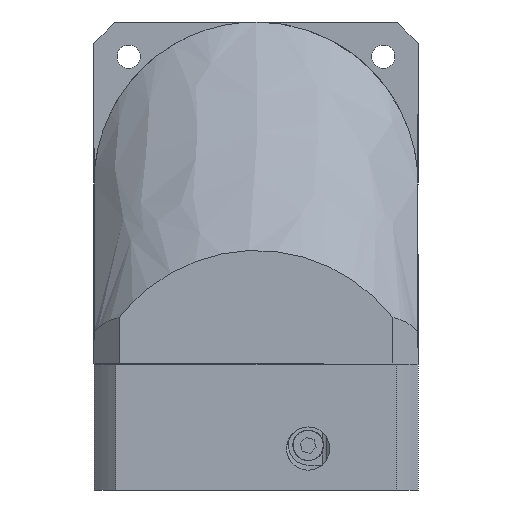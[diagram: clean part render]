
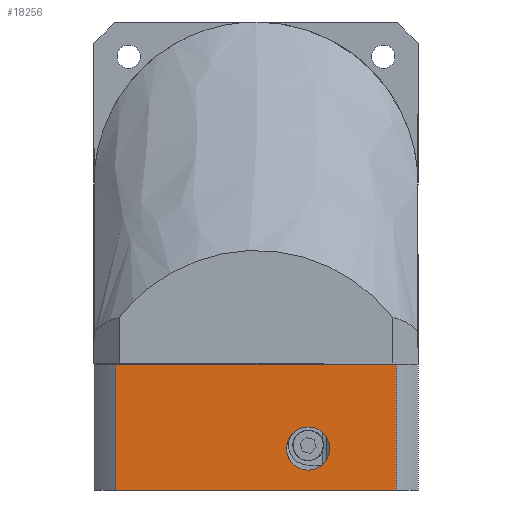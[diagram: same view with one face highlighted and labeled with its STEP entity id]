
A CAD part, front view. The second image highlights one B-rep face of the part: STEP entity #18256.
In plain terms, the highlighted planar face has unit normal (0, -1, 0) as drawn and (0, 0, 1) by its records, which use the part's own axes.
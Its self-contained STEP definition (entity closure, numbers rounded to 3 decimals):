
#817 = VERTEX_POINT ( 'NONE', #14903 ) ;
#1930 = EDGE_CURVE ( 'NONE', #2870, #8050, #3758, .T. ) ;
#2870 = VERTEX_POINT ( 'NONE', #21221 ) ;
#2893 = DIRECTION ( 'NONE',  ( 0., 0., -1. ) ) ;
#3099 = VECTOR ( 'NONE', #21223, 1000. ) ;
#3310 = FACE_BOUND ( 'NONE', #24379, .T. ) ;
#3758 = LINE ( 'NONE', #5715, #24033 ) ;
#4106 = DIRECTION ( 'NONE',  ( 0., 1., 0. ) ) ;
#4321 = EDGE_CURVE ( 'NONE', #8050, #817, #28242, .T. ) ;
#4721 = ORIENTED_EDGE ( 'NONE', *, *, #29421, .T. ) ;
#5494 = DIRECTION ( 'NONE',  ( 1., 0., 0. ) ) ;
#5715 = CARTESIAN_POINT ( 'NONE',  ( 59., -38.926, 45. ) ) ;
#5724 = ORIENTED_EDGE ( 'NONE', *, *, #4321, .T. ) ;
#8050 = VERTEX_POINT ( 'NONE', #29922 ) ;
#8631 = DIRECTION ( 'NONE',  ( 1., 0., 0. ) ) ;
#8857 = CARTESIAN_POINT ( 'NONE',  ( 0., 38.926, 45. ) ) ;
#10239 = ORIENTED_EDGE ( 'NONE', *, *, #1930, .T. ) ;
#10478 = VERTEX_POINT ( 'NONE', #21397 ) ;
#10853 = CIRCLE ( 'NONE', #23794, 6. ) ;
#11207 = DIRECTION ( 'NONE',  ( 0., 0., 1. ) ) ;
#11217 = VECTOR ( 'NONE', #4106, 1000. ) ;
#11722 = AXIS2_PLACEMENT_3D ( 'NONE', #33019, #2893, #18163 ) ;
#13328 = AXIS2_PLACEMENT_3D ( 'NONE', #18782, #11207, #8631 ) ;
#13689 = FACE_OUTER_BOUND ( 'NONE', #17675, .T. ) ;
#13841 = CARTESIAN_POINT ( 'NONE',  ( 5.5, -14.5, 45. ) ) ;
#14233 = VECTOR ( 'NONE', #18541, 1000. ) ;
#14903 = CARTESIAN_POINT ( 'NONE',  ( 35., 38.926, 45. ) ) ;
#17675 = EDGE_LOOP ( 'NONE', ( #10239, #5724, #32310, #22006 ) ) ;
#18163 = DIRECTION ( 'NONE',  ( 1., 0., 0. ) ) ;
#18256 = ADVANCED_FACE ( 'NONE', ( #13689, #3310 ), #26182, .T. ) ;
#18541 = DIRECTION ( 'NONE',  ( 0., -1., 0. ) ) ;
#18592 = LINE ( 'NONE', #28473, #14233 ) ;
#18782 = CARTESIAN_POINT ( 'NONE',  ( 59., -45., 45. ) ) ;
#19353 = CARTESIAN_POINT ( 'NONE',  ( 35., 59.5, 45. ) ) ;
#20906 = VERTEX_POINT ( 'NONE', #13841 ) ;
#21221 = CARTESIAN_POINT ( 'NONE',  ( 0., -38.926, 45. ) ) ;
#21223 = DIRECTION ( 'NONE',  ( -1., 0., 0. ) ) ;
#21397 = CARTESIAN_POINT ( 'NONE',  ( 17.5, -14.5, 45. ) ) ;
#21861 = CARTESIAN_POINT ( 'NONE',  ( 11.5, -14.5, 45. ) ) ;
#22006 = ORIENTED_EDGE ( 'NONE', *, *, #28255, .T. ) ;
#23261 = VERTEX_POINT ( 'NONE', #8857 ) ;
#23794 = AXIS2_PLACEMENT_3D ( 'NONE', #21861, #32067, #24384 ) ;
#24033 = VECTOR ( 'NONE', #5494, 1000. ) ;
#24379 = EDGE_LOOP ( 'NONE', ( #4721, #27125 ) ) ;
#24384 = DIRECTION ( 'NONE',  ( 1., 0., 0. ) ) ;
#26182 = PLANE ( 'NONE',  #13328 ) ;
#26829 = CIRCLE ( 'NONE', #11722, 6. ) ;
#27125 = ORIENTED_EDGE ( 'NONE', *, *, #28657, .T. ) ;
#27367 = EDGE_CURVE ( 'NONE', #817, #23261, #31347, .T. ) ;
#28242 = LINE ( 'NONE', #19353, #11217 ) ;
#28255 = EDGE_CURVE ( 'NONE', #23261, #2870, #18592, .T. ) ;
#28473 = CARTESIAN_POINT ( 'NONE',  ( 0., -45., 45. ) ) ;
#28657 = EDGE_CURVE ( 'NONE', #20906, #10478, #26829, .T. ) ;
#29421 = EDGE_CURVE ( 'NONE', #10478, #20906, #10853, .T. ) ;
#29922 = CARTESIAN_POINT ( 'NONE',  ( 35., -38.926, 45. ) ) ;
#31347 = LINE ( 'NONE', #31543, #3099 ) ;
#31543 = CARTESIAN_POINT ( 'NONE',  ( 59., 38.926, 45. ) ) ;
#32067 = DIRECTION ( 'NONE',  ( 0., 0., -1. ) ) ;
#32310 = ORIENTED_EDGE ( 'NONE', *, *, #27367, .T. ) ;
#33019 = CARTESIAN_POINT ( 'NONE',  ( 11.5, -14.5, 45. ) ) ;
